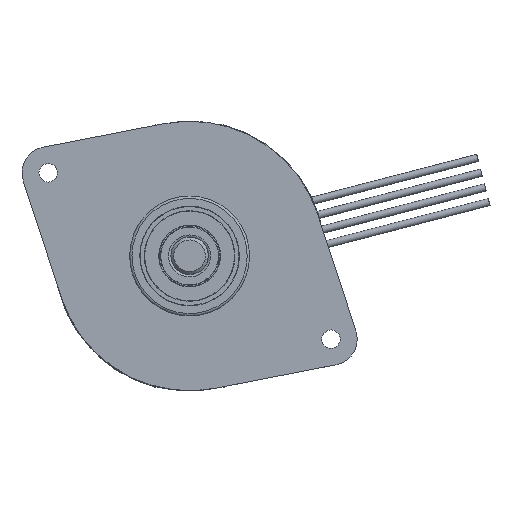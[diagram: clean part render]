
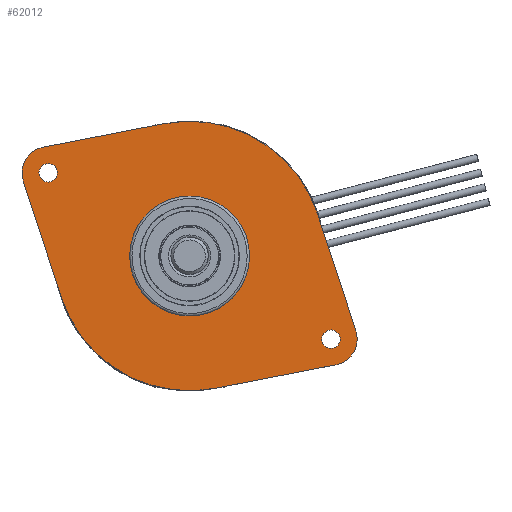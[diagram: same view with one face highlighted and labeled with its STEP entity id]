
A CAD part, top view. The second image highlights one B-rep face of the part: STEP entity #62012.
In plain terms, the highlighted planar face has unit normal (0, 0, 1).
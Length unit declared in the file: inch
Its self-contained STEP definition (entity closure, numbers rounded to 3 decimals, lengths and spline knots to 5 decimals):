
#61676=CARTESIAN_POINT('',(0.78535,-0.46168,0.1765));
#61677=VERTEX_POINT('',#61676);
#61678=CARTESIAN_POINT('',(0.74354,-0.4371,0.1765));
#61679=DIRECTION('',(0.,0.,-1.0));
#61680=DIRECTION('',(-0.862,0.507,0.));
#61681=AXIS2_PLACEMENT_3D('',#61678,#61679,#61680);
#61682=CIRCLE('',#61681,0.0485);
#61683=EDGE_CURVE('',#61677,#61677,#61682,.T.);
#61725=CARTESIAN_POINT('',(-0.78535,0.46168,0.1765));
#61726=VERTEX_POINT('',#61725);
#61727=CARTESIAN_POINT('',(-0.74354,0.4371,0.1765));
#61728=DIRECTION('',(0.,0.,-1.0));
#61729=DIRECTION('',(0.862,-0.507,0.));
#61730=AXIS2_PLACEMENT_3D('',#61727,#61728,#61729);
#61731=CIRCLE('',#61730,0.0485);
#61732=EDGE_CURVE('',#61726,#61726,#61731,.T.);
#61780=CARTESIAN_POINT('',(0.27185,-0.15982,0.1765));
#61781=VERTEX_POINT('',#61780);
#61782=CARTESIAN_POINT('',(0.,0.,0.1765));
#61783=DIRECTION('',(0.,0.,-1.0));
#61784=DIRECTION('',(-0.862,0.507,0.));
#61785=AXIS2_PLACEMENT_3D('',#61782,#61783,#61784);
#61786=CIRCLE('',#61785,0.31535);
#61787=EDGE_CURVE('',#61781,#61781,#61786,.T.);
#61798=CARTESIAN_POINT('',(-0.6736,-0.22023,0.1765));
#61799=VERTEX_POINT('',#61798);
#61806=CARTESIAN_POINT('',(-0.87451,0.39428,0.1765));
#61807=VERTEX_POINT('',#61806);
#61808=CARTESIAN_POINT('',(-0.6736,-0.22023,0.1765));
#61809=DIRECTION('',(-0.311,0.95,0.0));
#61810=VECTOR('',#61809,0.64652);
#61811=LINE('',#61808,#61810);
#61812=EDGE_CURVE('',#61799,#61807,#61811,.T.);
#61829=CARTESIAN_POINT('',(0.13517,-0.69568,0.1765));
#61830=VERTEX_POINT('',#61829);
#61837=CARTESIAN_POINT('',(0.,0.,0.1765));
#61838=DIRECTION('',(0.,0.,-1.));
#61839=DIRECTION('',(0.191,-0.982,0.));
#61840=AXIS2_PLACEMENT_3D('',#61837,#61838,#61839);
#61841=CIRCLE('',#61840,0.70869);
#61842=EDGE_CURVE('',#61830,#61799,#61841,.T.);
#61854=CARTESIAN_POINT('',(0.76982,-0.57237,0.1765));
#61855=VERTEX_POINT('',#61854);
#61862=CARTESIAN_POINT('',(0.76982,-0.57237,0.1765));
#61863=DIRECTION('',(-0.982,-0.191,0.0));
#61864=VECTOR('',#61863,0.64652);
#61865=LINE('',#61862,#61864);
#61866=EDGE_CURVE('',#61855,#61830,#61865,.T.);
#61878=CARTESIAN_POINT('',(0.87451,-0.39428,0.1765));
#61879=VERTEX_POINT('',#61878);
#61886=CARTESIAN_POINT('',(0.74354,-0.4371,0.1765));
#61887=DIRECTION('',(0.,0.,-1.));
#61888=DIRECTION('',(0.95,0.311,0.));
#61889=AXIS2_PLACEMENT_3D('',#61886,#61887,#61888);
#61890=CIRCLE('',#61889,0.1378);
#61891=EDGE_CURVE('',#61879,#61855,#61890,.T.);
#61903=CARTESIAN_POINT('',(0.6736,0.22023,0.1765));
#61904=VERTEX_POINT('',#61903);
#61911=CARTESIAN_POINT('',(0.6736,0.22023,0.1765));
#61912=DIRECTION('',(0.311,-0.95,0.0));
#61913=VECTOR('',#61912,0.64652);
#61914=LINE('',#61911,#61913);
#61915=EDGE_CURVE('',#61904,#61879,#61914,.T.);
#61927=CARTESIAN_POINT('',(-0.13517,0.69568,0.1765));
#61928=VERTEX_POINT('',#61927);
#61935=CARTESIAN_POINT('',(0.,0.,0.1765));
#61936=DIRECTION('',(0.,0.,-1.));
#61937=DIRECTION('',(-0.191,0.982,0.));
#61938=AXIS2_PLACEMENT_3D('',#61935,#61936,#61937);
#61939=CIRCLE('',#61938,0.70869);
#61940=EDGE_CURVE('',#61928,#61904,#61939,.T.);
#61952=CARTESIAN_POINT('',(-0.76982,0.57237,0.1765));
#61953=VERTEX_POINT('',#61952);
#61960=CARTESIAN_POINT('',(-0.76982,0.57237,0.1765));
#61961=DIRECTION('',(0.982,0.191,0.0));
#61962=VECTOR('',#61961,0.64652);
#61963=LINE('',#61960,#61962);
#61964=EDGE_CURVE('',#61953,#61928,#61963,.T.);
#61977=CARTESIAN_POINT('',(-0.74354,0.4371,0.1765));
#61978=DIRECTION('',(0.,0.,-1.));
#61979=DIRECTION('',(-0.95,-0.311,0.));
#61980=AXIS2_PLACEMENT_3D('',#61977,#61978,#61979);
#61981=CIRCLE('',#61980,0.1378);
#61982=EDGE_CURVE('',#61807,#61953,#61981,.T.);
#61988=CARTESIAN_POINT('',(0.,0.,0.1765));
#61989=DIRECTION('',(0.0,0.0,-1.0));
#61990=DIRECTION('',(0.862,-0.507,0.0));
#61991=AXIS2_PLACEMENT_3D('',#61988,#61989,#61990);
#61992=PLANE('',#61991);
#61993=ORIENTED_EDGE('',*,*,#61982,.F.);
#61994=ORIENTED_EDGE('',*,*,#61812,.F.);
#61995=ORIENTED_EDGE('',*,*,#61842,.F.);
#61996=ORIENTED_EDGE('',*,*,#61866,.F.);
#61997=ORIENTED_EDGE('',*,*,#61891,.F.);
#61998=ORIENTED_EDGE('',*,*,#61915,.F.);
#61999=ORIENTED_EDGE('',*,*,#61940,.F.);
#62000=ORIENTED_EDGE('',*,*,#61964,.F.);
#62001=EDGE_LOOP('',(#61993,#61994,#61995,#61996,#61997,#61998,#61999,#62000));
#62002=FACE_OUTER_BOUND('',#62001,.T.);
#62003=ORIENTED_EDGE('',*,*,#61683,.T.);
#62004=EDGE_LOOP('',(#62003));
#62005=FACE_BOUND('',#62004,.T.);
#62006=ORIENTED_EDGE('',*,*,#61732,.T.);
#62007=EDGE_LOOP('',(#62006));
#62008=FACE_BOUND('',#62007,.T.);
#62009=ORIENTED_EDGE('',*,*,#61787,.T.);
#62010=EDGE_LOOP('',(#62009));
#62011=FACE_BOUND('',#62010,.T.);
#62012=ADVANCED_FACE('',(#62002,#62005,#62008,#62011),#61992,.F.);
